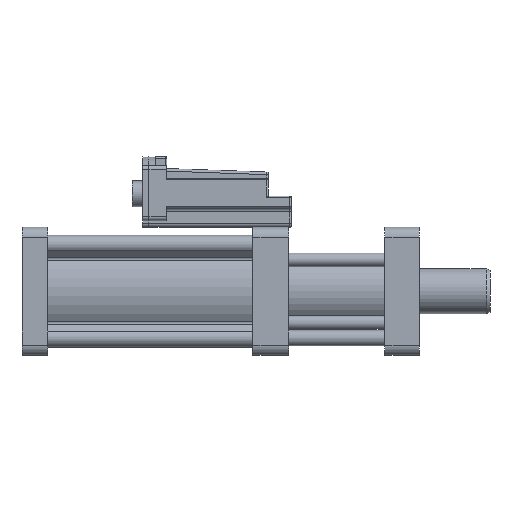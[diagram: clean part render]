
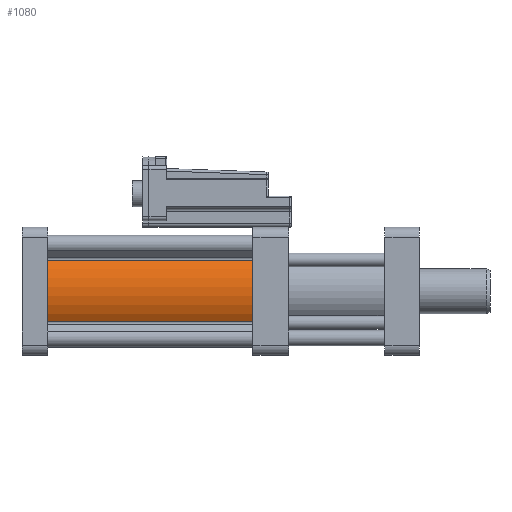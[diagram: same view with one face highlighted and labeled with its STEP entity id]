
A CAD part, left-side view. The second image highlights one B-rep face of the part: STEP entity #1080.
In plain terms, the highlighted cylindrical face has radius 43 mm (diameter 86 mm), a partial arc.
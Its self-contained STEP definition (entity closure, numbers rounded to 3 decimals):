
#868 = CARTESIAN_POINT ( 'NONE',  ( 0., -81., -50. ) ) ;
#1080 = ADVANCED_FACE ( 'NONE', ( #3045 ), #15514, .T. ) ;
#1526 = EDGE_CURVE ( 'NONE', #15960, #12114, #6731, .T. ) ;
#1705 = EDGE_CURVE ( 'NONE', #12114, #15397, #13956, .T. ) ;
#1889 = CARTESIAN_POINT ( 'NONE',  ( 0., 79., -50. ) ) ;
#2138 = DIRECTION ( 'NONE',  ( 0., 0., 1. ) ) ;
#2632 = DIRECTION ( 'NONE',  ( 0., 0., -1. ) ) ;
#2687 = CARTESIAN_POINT ( 'NONE',  ( -35.872, 79., -26.29 ) ) ;
#3045 = FACE_OUTER_BOUND ( 'NONE', #5759, .T. ) ;
#3151 = DIRECTION ( 'NONE',  ( 0., 0., 1. ) ) ;
#3556 = CARTESIAN_POINT ( 'NONE',  ( -35.872, 202.037, -73.71 ) ) ;
#3567 = CARTESIAN_POINT ( 'NONE',  ( -35.872, 79., -73.71 ) ) ;
#3834 = VECTOR ( 'NONE', #12202, 1000. ) ;
#4070 = DIRECTION ( 'NONE',  ( 0., -1., 0. ) ) ;
#4544 = EDGE_CURVE ( 'NONE', #15352, #15397, #5040, .T. ) ;
#4680 = AXIS2_PLACEMENT_3D ( 'NONE', #868, #9609, #2138 ) ;
#4791 = ORIENTED_EDGE ( 'NONE', *, *, #11141, .F. ) ;
#5040 = LINE ( 'NONE', #10225, #14564 ) ;
#5759 = EDGE_LOOP ( 'NONE', ( #4791, #5816, #13805, #7429 ) ) ;
#5816 = ORIENTED_EDGE ( 'NONE', *, *, #1526, .T. ) ;
#6148 = AXIS2_PLACEMENT_3D ( 'NONE', #10087, #8847, #2632 ) ;
#6731 = LINE ( 'NONE', #3556, #3834 ) ;
#7429 = ORIENTED_EDGE ( 'NONE', *, *, #4544, .F. ) ;
#8847 = DIRECTION ( 'NONE',  ( 0., -1., 0. ) ) ;
#9061 = CARTESIAN_POINT ( 'NONE',  ( -35.872, -81., -26.29 ) ) ;
#9609 = DIRECTION ( 'NONE',  ( 0., 1., 0. ) ) ;
#9974 = AXIS2_PLACEMENT_3D ( 'NONE', #1889, #10604, #3151 ) ;
#10087 = CARTESIAN_POINT ( 'NONE',  ( 0., 202.037, -50. ) ) ;
#10225 = CARTESIAN_POINT ( 'NONE',  ( -35.872, 202.037, -26.29 ) ) ;
#10604 = DIRECTION ( 'NONE',  ( 0., 1., 0. ) ) ;
#11141 = EDGE_CURVE ( 'NONE', #15960, #15352, #12338, .T. ) ;
#12114 = VERTEX_POINT ( 'NONE', #14787 ) ;
#12202 = DIRECTION ( 'NONE',  ( 0., -1., 0. ) ) ;
#12338 = CIRCLE ( 'NONE', #9974, 43. ) ;
#13805 = ORIENTED_EDGE ( 'NONE', *, *, #1705, .T. ) ;
#13956 = CIRCLE ( 'NONE', #4680, 43. ) ;
#14564 = VECTOR ( 'NONE', #4070, 1000. ) ;
#14787 = CARTESIAN_POINT ( 'NONE',  ( -35.872, -81., -73.71 ) ) ;
#15352 = VERTEX_POINT ( 'NONE', #2687 ) ;
#15397 = VERTEX_POINT ( 'NONE', #9061 ) ;
#15514 = CYLINDRICAL_SURFACE ( 'NONE', #6148, 43. ) ;
#15960 = VERTEX_POINT ( 'NONE', #3567 ) ;
